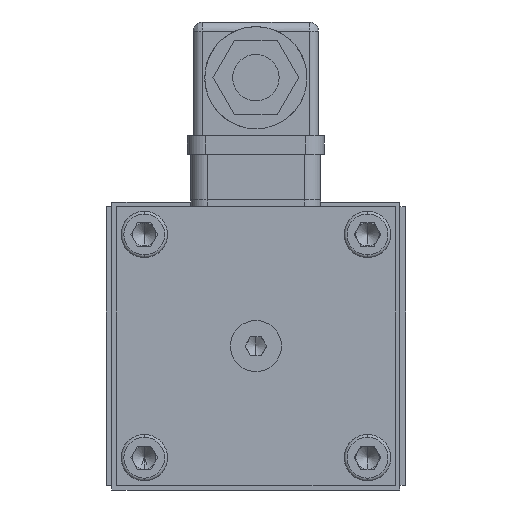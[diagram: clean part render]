
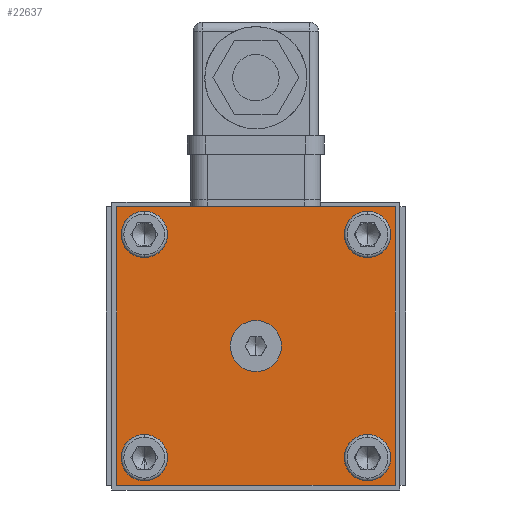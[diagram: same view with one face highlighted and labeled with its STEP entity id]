
A CAD part, left-side view. The second image highlights one B-rep face of the part: STEP entity #22637.
In plain terms, the highlighted planar face has unit normal (-1, 0, 0).
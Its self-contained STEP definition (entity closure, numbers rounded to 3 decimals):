
#113 = DIRECTION ( 'NONE',  ( 0., 0., 1. ) ) ;
#224 = CARTESIAN_POINT ( 'NONE',  ( -81.2, 30., 30. ) ) ;
#557 = EDGE_LOOP ( 'NONE', ( #36065, #19311 ) ) ;
#588 = ORIENTED_EDGE ( 'NONE', *, *, #10497, .F. ) ;
#791 = VERTEX_POINT ( 'NONE', #38648 ) ;
#815 = EDGE_CURVE ( 'NONE', #30663, #6625, #3977, .T. ) ;
#1747 = VECTOR ( 'NONE', #28072, 1000. ) ;
#1801 = EDGE_LOOP ( 'NONE', ( #29972, #38887 ) ) ;
#1994 = FACE_BOUND ( 'NONE', #36747, .T. ) ;
#2395 = AXIS2_PLACEMENT_3D ( 'NONE', #37301, #17935, #40612 ) ;
#2450 = AXIS2_PLACEMENT_3D ( 'NONE', #13752, #36322, #16946 ) ;
#3479 = DIRECTION ( 'NONE',  ( 0., -1., 0. ) ) ;
#3609 = VERTEX_POINT ( 'NONE', #11951 ) ;
#3623 = LINE ( 'NONE', #37404, #20742 ) ;
#3773 = PLANE ( 'NONE',  #2450 ) ;
#3977 = CIRCLE ( 'NONE', #33290, 5. ) ;
#4209 = CIRCLE ( 'NONE', #2395, 5. ) ;
#4288 = VERTEX_POINT ( 'NONE', #31519 ) ;
#4787 = LINE ( 'NONE', #24826, #1747 ) ;
#5865 = EDGE_CURVE ( 'NONE', #31736, #30721, #4787, .T. ) ;
#6211 = ORIENTED_EDGE ( 'NONE', *, *, #34426, .F. ) ;
#6388 = CARTESIAN_POINT ( 'NONE',  ( -81.2, 24.04, -24.04 ) ) ;
#6625 = VERTEX_POINT ( 'NONE', #18816 ) ;
#7509 = EDGE_CURVE ( 'NONE', #15889, #24475, #30197, .T. ) ;
#7575 = DIRECTION ( 'NONE',  ( -1., 0., 0. ) ) ;
#7637 = VERTEX_POINT ( 'NONE', #29712 ) ;
#8220 = ORIENTED_EDGE ( 'NONE', *, *, #21843, .F. ) ;
#8632 = AXIS2_PLACEMENT_3D ( 'NONE', #38794, #19404, #113 ) ;
#9076 = ORIENTED_EDGE ( 'NONE', *, *, #7509, .F. ) ;
#9406 = DIRECTION ( 'NONE',  ( -1., 0., 0. ) ) ;
#9584 = DIRECTION ( 'NONE',  ( 0., 0., 1. ) ) ;
#9734 = CARTESIAN_POINT ( 'NONE',  ( -81.2, -30., 30. ) ) ;
#9873 = DIRECTION ( 'NONE',  ( -1., 0., 0. ) ) ;
#10383 = AXIS2_PLACEMENT_3D ( 'NONE', #26883, #7575, #30124 ) ;
#10414 = ORIENTED_EDGE ( 'NONE', *, *, #5865, .T. ) ;
#10497 = EDGE_CURVE ( 'NONE', #791, #4288, #13245, .T. ) ;
#10554 = FACE_BOUND ( 'NONE', #1801, .T. ) ;
#10604 = EDGE_LOOP ( 'NONE', ( #40379, #20019 ) ) ;
#11394 = AXIS2_PLACEMENT_3D ( 'NONE', #34420, #15088, #37700 ) ;
#11545 = AXIS2_PLACEMENT_3D ( 'NONE', #28727, #9406, #31952 ) ;
#11951 = CARTESIAN_POINT ( 'NONE',  ( -81.2, 30., 30. ) ) ;
#13245 = CIRCLE ( 'NONE', #33850, 5. ) ;
#13752 = CARTESIAN_POINT ( 'NONE',  ( -81.2, 30., 30. ) ) ;
#14229 = CIRCLE ( 'NONE', #11545, 5. ) ;
#14465 = EDGE_CURVE ( 'NONE', #6625, #30663, #22460, .T. ) ;
#15088 = DIRECTION ( 'NONE',  ( -1., 0., 0. ) ) ;
#15363 = EDGE_CURVE ( 'NONE', #30352, #23090, #14229, .T. ) ;
#15441 = EDGE_CURVE ( 'NONE', #3609, #27358, #33904, .T. ) ;
#15686 = AXIS2_PLACEMENT_3D ( 'NONE', #16333, #38991, #19594 ) ;
#15889 = VERTEX_POINT ( 'NONE', #22311 ) ;
#16257 = CARTESIAN_POINT ( 'NONE',  ( -81.2, -24.04, -24.04 ) ) ;
#16333 = CARTESIAN_POINT ( 'NONE',  ( -81.2, -24.04, 24.04 ) ) ;
#16946 = DIRECTION ( 'NONE',  ( 0., 0., -1. ) ) ;
#17098 = CARTESIAN_POINT ( 'NONE',  ( -81.2, -30., 30. ) ) ;
#17935 = DIRECTION ( 'NONE',  ( -1., 0., 0. ) ) ;
#18027 = CARTESIAN_POINT ( 'NONE',  ( -81.2, -24.04, -24.04 ) ) ;
#18032 = DIRECTION ( 'NONE',  ( 0., 0., -1. ) ) ;
#18090 = FACE_BOUND ( 'NONE', #557, .T. ) ;
#18816 = CARTESIAN_POINT ( 'NONE',  ( -81.2, -24.04, -29.04 ) ) ;
#19258 = EDGE_CURVE ( 'NONE', #3609, #31736, #3623, .T. ) ;
#19311 = ORIENTED_EDGE ( 'NONE', *, *, #14465, .F. ) ;
#19325 = EDGE_CURVE ( 'NONE', #34164, #7637, #28342, .T. ) ;
#19404 = DIRECTION ( 'NONE',  ( -1., 0., 0. ) ) ;
#19533 = DIRECTION ( 'NONE',  ( 0., 0., 1. ) ) ;
#19594 = DIRECTION ( 'NONE',  ( 0., 0., 1. ) ) ;
#20019 = ORIENTED_EDGE ( 'NONE', *, *, #15363, .F. ) ;
#20742 = VECTOR ( 'NONE', #18032, 1000. ) ;
#20906 = EDGE_LOOP ( 'NONE', ( #9076, #6211 ) ) ;
#21279 = DIRECTION ( 'NONE',  ( 0., 0., 1. ) ) ;
#21843 = EDGE_CURVE ( 'NONE', #27358, #30721, #24329, .T. ) ;
#22311 = CARTESIAN_POINT ( 'NONE',  ( -81.2, 24.04, -19.04 ) ) ;
#22460 = CIRCLE ( 'NONE', #40197, 5. ) ;
#22637 = ADVANCED_FACE ( 'NONE', ( #10554, #1994, #27727, #35281, #26715, #18090 ), #3773, .T. ) ;
#23090 = VERTEX_POINT ( 'NONE', #33323 ) ;
#24001 = CARTESIAN_POINT ( 'NONE',  ( -81.2, -24.04, 19.04 ) ) ;
#24329 = LINE ( 'NONE', #9734, #32872 ) ;
#24475 = VERTEX_POINT ( 'NONE', #29677 ) ;
#24546 = EDGE_CURVE ( 'NONE', #4288, #791, #39514, .T. ) ;
#24826 = CARTESIAN_POINT ( 'NONE',  ( -81.2, 30., -30. ) ) ;
#25261 = CIRCLE ( 'NONE', #15686, 5. ) ;
#26715 = FACE_BOUND ( 'NONE', #20906, .T. ) ;
#26883 = CARTESIAN_POINT ( 'NONE',  ( -81.2, 24.04, 24.04 ) ) ;
#27198 = EDGE_CURVE ( 'NONE', #7637, #34164, #41318, .T. ) ;
#27358 = VERTEX_POINT ( 'NONE', #17098 ) ;
#27727 = FACE_BOUND ( 'NONE', #10604, .T. ) ;
#28072 = DIRECTION ( 'NONE',  ( 0., -1., 0. ) ) ;
#28342 = CIRCLE ( 'NONE', #11394, 5.5 ) ;
#28727 = CARTESIAN_POINT ( 'NONE',  ( -81.2, -24.04, 24.04 ) ) ;
#28804 = EDGE_CURVE ( 'NONE', #23090, #30352, #25261, .T. ) ;
#28915 = DIRECTION ( 'NONE',  ( -1., 0., 0. ) ) ;
#29190 = CARTESIAN_POINT ( 'NONE',  ( -81.2, 24.04, 24.04 ) ) ;
#29677 = CARTESIAN_POINT ( 'NONE',  ( -81.2, 24.04, -29.04 ) ) ;
#29712 = CARTESIAN_POINT ( 'NONE',  ( -81.2, 0., -5.5 ) ) ;
#29972 = ORIENTED_EDGE ( 'NONE', *, *, #19325, .F. ) ;
#30124 = DIRECTION ( 'NONE',  ( 0., 0., 1. ) ) ;
#30197 = CIRCLE ( 'NONE', #35181, 5. ) ;
#30352 = VERTEX_POINT ( 'NONE', #24001 ) ;
#30524 = ORIENTED_EDGE ( 'NONE', *, *, #15441, .F. ) ;
#30663 = VERTEX_POINT ( 'NONE', #35811 ) ;
#30721 = VERTEX_POINT ( 'NONE', #39380 ) ;
#30779 = EDGE_LOOP ( 'NONE', ( #8220, #30524, #33476, #10414 ) ) ;
#31519 = CARTESIAN_POINT ( 'NONE',  ( -81.2, 24.04, 19.04 ) ) ;
#31736 = VERTEX_POINT ( 'NONE', #41304 ) ;
#31952 = DIRECTION ( 'NONE',  ( 0., 0., 1. ) ) ;
#32415 = DIRECTION ( 'NONE',  ( 0., 0., 1. ) ) ;
#32872 = VECTOR ( 'NONE', #38824, 1000. ) ;
#32875 = VECTOR ( 'NONE', #3479, 1000. ) ;
#33290 = AXIS2_PLACEMENT_3D ( 'NONE', #16257, #38907, #19533 ) ;
#33323 = CARTESIAN_POINT ( 'NONE',  ( -81.2, -24.04, 29.04 ) ) ;
#33476 = ORIENTED_EDGE ( 'NONE', *, *, #19258, .T. ) ;
#33850 = AXIS2_PLACEMENT_3D ( 'NONE', #29190, #9873, #32415 ) ;
#33904 = LINE ( 'NONE', #224, #32875 ) ;
#34164 = VERTEX_POINT ( 'NONE', #35607 ) ;
#34420 = CARTESIAN_POINT ( 'NONE',  ( -81.2, 0., 0. ) ) ;
#34426 = EDGE_CURVE ( 'NONE', #24475, #15889, #4209, .T. ) ;
#35181 = AXIS2_PLACEMENT_3D ( 'NONE', #6388, #28915, #9584 ) ;
#35281 = FACE_OUTER_BOUND ( 'NONE', #30779, .T. ) ;
#35607 = CARTESIAN_POINT ( 'NONE',  ( -81.2, 0., 5.5 ) ) ;
#35811 = CARTESIAN_POINT ( 'NONE',  ( -81.2, -24.04, -19.04 ) ) ;
#36065 = ORIENTED_EDGE ( 'NONE', *, *, #815, .F. ) ;
#36322 = DIRECTION ( 'NONE',  ( -1., 0., 0. ) ) ;
#36747 = EDGE_LOOP ( 'NONE', ( #588, #38832 ) ) ;
#37301 = CARTESIAN_POINT ( 'NONE',  ( -81.2, 24.04, -24.04 ) ) ;
#37404 = CARTESIAN_POINT ( 'NONE',  ( -81.2, 30., 30. ) ) ;
#37700 = DIRECTION ( 'NONE',  ( 0., 0., 1. ) ) ;
#38648 = CARTESIAN_POINT ( 'NONE',  ( -81.2, 24.04, 29.04 ) ) ;
#38794 = CARTESIAN_POINT ( 'NONE',  ( -81.2, 0., 0. ) ) ;
#38824 = DIRECTION ( 'NONE',  ( 0., 0., -1. ) ) ;
#38832 = ORIENTED_EDGE ( 'NONE', *, *, #24546, .F. ) ;
#38887 = ORIENTED_EDGE ( 'NONE', *, *, #27198, .F. ) ;
#38907 = DIRECTION ( 'NONE',  ( -1., 0., 0. ) ) ;
#38991 = DIRECTION ( 'NONE',  ( -1., 0., 0. ) ) ;
#39380 = CARTESIAN_POINT ( 'NONE',  ( -81.2, -30., -30. ) ) ;
#39514 = CIRCLE ( 'NONE', #10383, 5. ) ;
#40197 = AXIS2_PLACEMENT_3D ( 'NONE', #18027, #40707, #21279 ) ;
#40379 = ORIENTED_EDGE ( 'NONE', *, *, #28804, .F. ) ;
#40612 = DIRECTION ( 'NONE',  ( 0., 0., 1. ) ) ;
#40707 = DIRECTION ( 'NONE',  ( -1., 0., 0. ) ) ;
#41304 = CARTESIAN_POINT ( 'NONE',  ( -81.2, 30., -30. ) ) ;
#41318 = CIRCLE ( 'NONE', #8632, 5.5 ) ;
